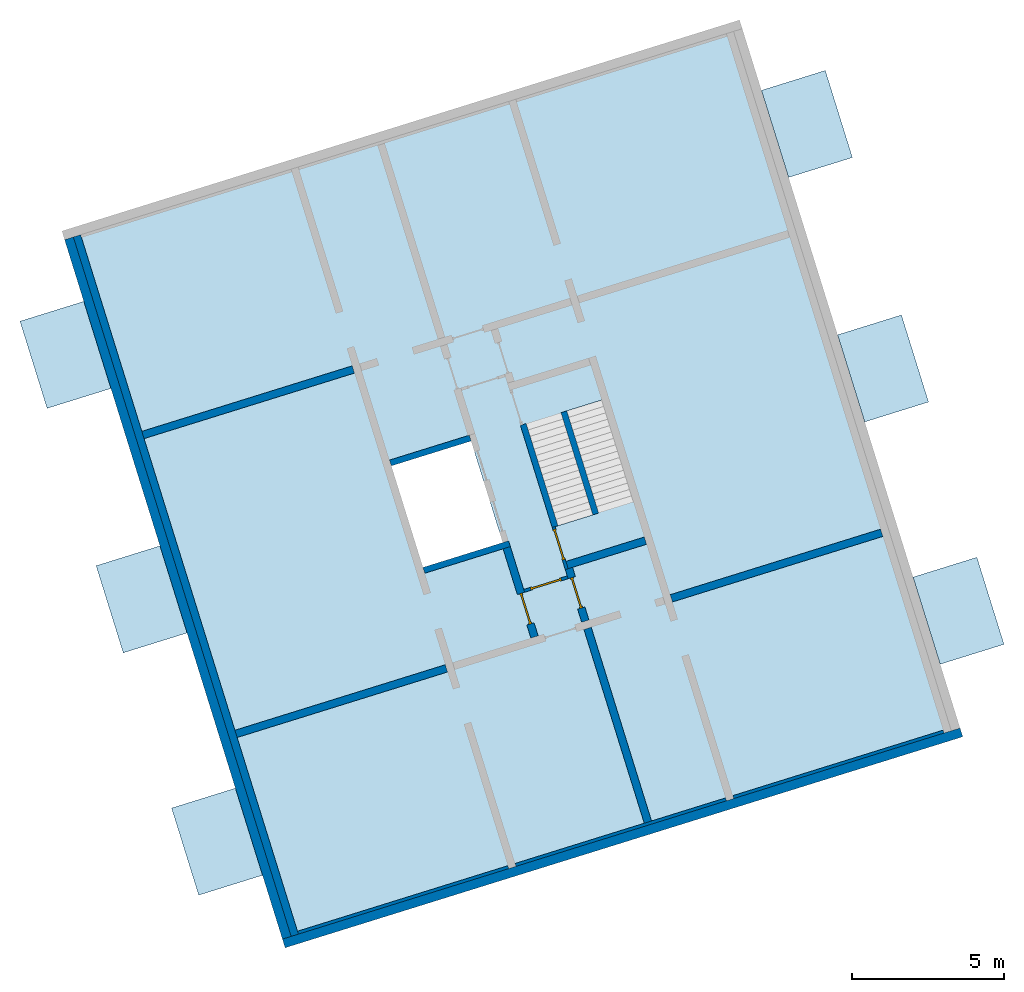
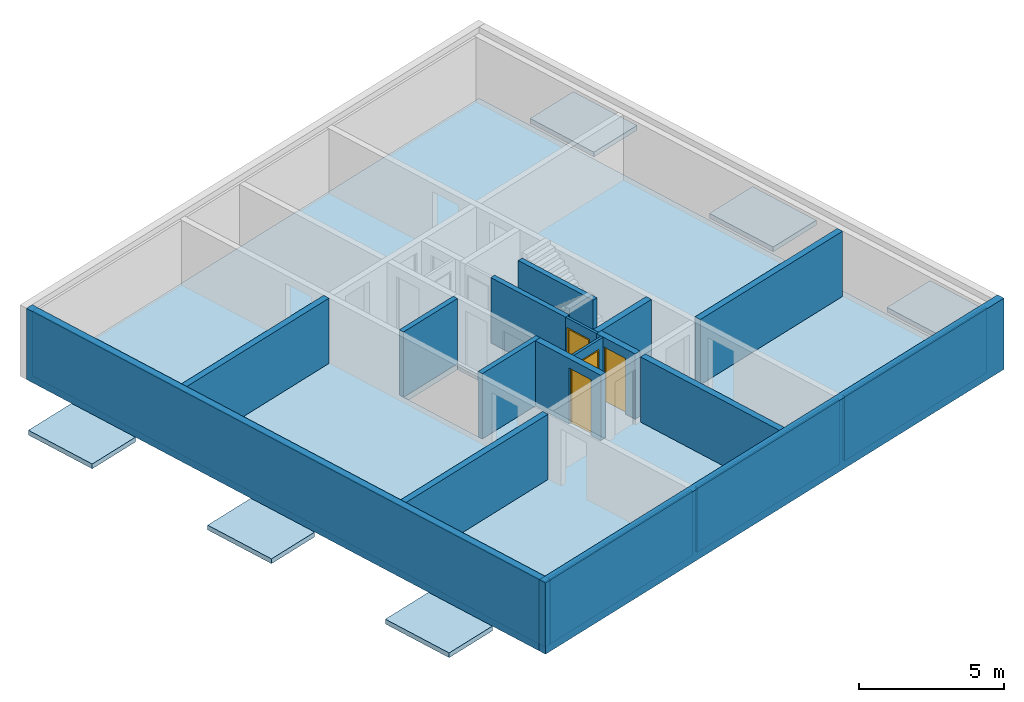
# One storey, part 1 of 4: 19 walls, 7 slabs, 4 doors, 6 openings.
"""IFC4 building model written with IfcOpenShell, lengths in metres."""

from ifc_helpers import new_model, entity, si_unit, converted_unit, direction, frame, origin, place, context, subcontext, project, spatial, indexed_curve, outline, extrude, polygons, source, transform, mapped, material, constituent, constituent_set, type_object, type_shapes, element, fill, save


model = new_model("IFC4")

# Units and contexts
model_context = context("Model", 3, precision=1e-05, world=origin(), true_north=direction((6.12323399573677e-17, 1.0)))
body_context = subcontext(model_context, "Body", "Model", "MODEL_VIEW")
ifc_project = project(units=[si_unit("LENGTHUNIT", "METRE"), si_unit("AREAUNIT", "SQUARE_METRE"), si_unit("VOLUMEUNIT", "CUBIC_METRE"), converted_unit("PLANEANGLEUNIT", "DEGREE", entity("IfcPlaneAngleMeasure", 0.0174532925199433), si_unit("PLANEANGLEUNIT", "RADIAN"), dimensions=[0, 0, 0, 0, 0, 0, 0])], contexts=[model_context])

# Site, building, storey
site_placement = place(None, frame((13.1347999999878, 11.9886000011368, 0.0), z_axis=(0.0, 0.0, 1.0), x_axis=(0.954770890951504, 0.297342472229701, 0.0)))
site = spatial("IfcSite", under=ifc_project, at=site_placement, Name="Schiehaven", CompositionType="ELEMENT")
building_placement = place(site_placement, origin())
building = spatial("IfcBuilding", under=site, at=building_placement, Name="VORM huis", CompositionType="ELEMENT")
storey_placement = place(building_placement, frame((0.0, 0.0, 15.9)))
storey = spatial("IfcBuildingStorey", under=building, at=storey_placement, Name="05 vijfde verdieping", CompositionType="ELEMENT", Elevation=15.9)

# Slab, openings
ifc_material_1 = material(Name="beton_gewapend_ihw", Category="Miscellaneous")
slab_type_1 = type_object("IfcSlabType", Name="Floor:28_FL_skelet_vloer 250mm", PredefinedType="FLOOR", material=ifc_material_1)
slab_1_placement = place(storey_placement, origin())
slab_1 = element("IfcSlab", 1, at=slab_1_placement, inside=storey, type_object=slab_type_1, material=ifc_material_1, Name="Constructieve vloer", ObjectType="Vloer", PredefinedType="FLOOR", context=body_context, shape_type="SweptSolid", body=[
    extrude(outline(indexed_curve([(-12.05, -11.375), (12.05, -11.375), (12.05, 11.375), (-12.05, 11.375), (-12.05, -11.375)], self_intersect=False), holes=[indexed_curve([(-1.75000000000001, -3.62500000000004), (-1.75000000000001, -0.875000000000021), (1.74999999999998, -0.875000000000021), (1.74999999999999, -3.62500000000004), (-1.75000000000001, -3.62500000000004)], self_intersect=False), indexed_curve([(1.76, 2.22499999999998), (1.76, 1.02499999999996), (-1.54, 1.02499999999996), (-1.54, 2.22499999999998), (1.76, 2.22499999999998)], self_intersect=False), indexed_curve([(-1.75999999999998, 3.62499999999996), (1.54, 3.62499999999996), (1.54, 2.42499999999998), (-1.75999999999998, 2.42499999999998), (-1.75999999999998, 3.62499999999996)], self_intersect=False)]), frame((16.2500000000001, 17.05, -0.249999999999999), z_axis=(0.0, 0.0, 1.0), x_axis=(0.0, -1.0, 0.0)), (0.0, 0.0, 1.0), 0.249999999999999),
])
opening_1_placement = place(slab_1_placement, origin())
element("IfcOpeningElement", 2, at=opening_1_placement, cuts=slab_1, Name="Constructieve vloer", PredefinedType="OPENING", context=body_context, shape_type="SweptSolid", body=[
    extrude(outline(indexed_curve([(-1.74999999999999, -1.37500000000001), (1.75, -1.37500000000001), (1.75, 1.37500000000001), (-1.75, 1.37500000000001), (-1.74999999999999, -1.37500000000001)], self_intersect=False)), frame((14.0, 17.05, -0.249999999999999), z_axis=(0.0, 0.0, 1.0), x_axis=(0.0, -1.0, 0.0)), (0.0, 0.0, 1.0), 0.249999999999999),
])
opening_2_placement = place(slab_1_placement, origin())
element("IfcOpeningElement", 3, at=opening_2_placement, cuts=slab_1, Name="Constructieve vloer", PredefinedType="OPENING", context=body_context, shape_type="SweptSolid", body=[
    extrude(outline(indexed_curve([(-1.65, -0.600000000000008), (1.65, -0.600000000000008), (1.65, 0.600000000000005), (-1.65, 0.600000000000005), (-1.65, -0.600000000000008)], self_intersect=False)), frame((17.8750000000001, 16.94, -0.249999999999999), z_axis=(0.0, 0.0, 1.0), x_axis=(0.0, 1.0, 0.0)), (0.0, 0.0, 1.0), 0.249999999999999),
])

# Slabs
ifc_material_2 = material(Name="beton_gewapend_prefab-element", Category="Miscellaneous")
slab_type_2 = type_object("IfcSlabType", Name="Floor:23_FL_skelet_balkon 200mm", PredefinedType="FLOOR", material=ifc_material_2)
slab_2_placement = place(storey_placement, origin())
element("IfcSlab", 4, at=slab_2_placement, inside=storey, type_object=slab_type_2, material=ifc_material_2, Name="Balkonvloer", ObjectType="Vloer", PredefinedType="FLOOR", context=body_context, shape_type="SweptSolid", body=[
    extrude(outline(indexed_curve([(-1.5, -1.1), (1.5, -1.1), (1.5, 1.09999999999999), (-1.5, 1.09999999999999), (-1.5, -1.1)], self_intersect=False)), frame((29.0250000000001, 25.475, 0.0), z_axis=(0.0, 0.0, -1.0), x_axis=(0.0, 1.0, 0.0)), (0.0, 0.0, 1.0), 0.2),
])
slab_3_placement = place(storey_placement, origin())
element("IfcSlab", 5, at=slab_3_placement, inside=storey, type_object=slab_type_2, material=ifc_material_2, Name="Balkonvloer", ObjectType="Vloer", PredefinedType="FLOOR", context=body_context, shape_type="SweptSolid", body=[
    extrude(outline(indexed_curve([(-1.5, -1.1), (1.5, -1.1), (1.5, 1.1), (-1.5, 1.1), (-1.5, -1.1)], self_intersect=False)), frame((29.0250000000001, 8.70000000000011, 0.0), z_axis=(0.0, 0.0, -1.0), x_axis=(0.0, 1.0, 0.0)), (0.0, 0.0, 1.0), 0.2),
])
slab_4_placement = place(storey_placement, origin())
element("IfcSlab", 6, at=slab_4_placement, inside=storey, type_object=slab_type_2, material=ifc_material_2, Name="Balkonvloer", ObjectType="Vloer", PredefinedType="FLOOR", context=body_context, shape_type="SweptSolid", body=[
    extrude(outline(indexed_curve([(-1.5, -1.1), (1.5, -1.1), (1.5, 1.1), (-1.5, 1.1), (-1.5, -1.1)], self_intersect=False)), frame((29.0250000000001, 17.05, 0.0), z_axis=(0.0, 0.0, -1.0), x_axis=(0.0, 1.0, 0.0)), (0.0, 0.0, 1.0), 0.2),
])
slab_5_placement = place(storey_placement, origin())
element("IfcSlab", 7, at=slab_5_placement, inside=storey, type_object=slab_type_2, material=ifc_material_2, Name="Balkonvloer", ObjectType="Vloer", PredefinedType="FLOOR", context=body_context, shape_type="SweptSolid", body=[
    extrude(outline(indexed_curve([(-1.49999999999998, -1.1), (1.50000000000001, -1.1), (1.49999999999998, 1.1), (-1.50000000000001, 1.1), (-1.49999999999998, -1.1)], self_intersect=False)), frame((3.47500000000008, 25.4750000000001, 0.0), z_axis=(0.0, 0.0, -1.0), x_axis=(0.0, 1.0, 0.0)), (0.0, 0.0, 1.0), 0.2),
])
slab_6_placement = place(storey_placement, origin())
element("IfcSlab", 8, at=slab_6_placement, inside=storey, type_object=slab_type_2, material=ifc_material_2, Name="Balkonvloer", ObjectType="Vloer", PredefinedType="FLOOR", context=body_context, shape_type="SweptSolid", body=[
    extrude(outline(indexed_curve([(-1.49999999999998, -1.1), (1.50000000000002, -1.1), (1.49999999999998, 1.1), (-1.50000000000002, 1.1), (-1.49999999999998, -1.1)], self_intersect=False)), frame((3.47499999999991, 8.70000000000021, 0.0), z_axis=(0.0, 0.0, -1.0), x_axis=(0.0, 1.0, 0.0)), (0.0, 0.0, 1.0), 0.2),
])
slab_7_placement = place(storey_placement, origin())
element("IfcSlab", 9, at=slab_7_placement, inside=storey, type_object=slab_type_2, material=ifc_material_2, Name="Balkonvloer", ObjectType="Vloer", PredefinedType="FLOOR", context=body_context, shape_type="SweptSolid", body=[
    extrude(outline(indexed_curve([(-1.49999999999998, -1.1), (1.50000000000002, -1.1), (1.49999999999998, 1.1), (-1.50000000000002, 1.1), (-1.49999999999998, -1.1)], self_intersect=False)), frame((3.47499999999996, 17.0500000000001, 0.0), z_axis=(0.0, 0.0, -1.0), x_axis=(0.0, 1.0, 0.0)), (0.0, 0.0, 1.0), 0.2),
])

# Walls
wall_type_1 = type_object("IfcWallType", Name="Basic Wall:28_WA_skelet_wand 250mm_gen", PredefinedType="STANDARD")
wall_1_placement = place(storey_placement, frame((5.0, 5.0, 0.0), z_axis=(0.0, 0.0, 1.0), x_axis=(0.0, 1.0, 0.0)))
element("IfcWall", 10, at=wall_1_placement, inside=storey, type_object=wall_type_1, material=ifc_material_1, Name="Constructieve wand", ObjectType="Wand", PredefinedType="NOTDEFINED", context=body_context, shape_type="SweptSolid", body=[
    extrude(outline(indexed_curve([(24.1, 0.125), (4.21737840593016e-16, 0.125), (-4.21737840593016e-16, -0.125), (24.1, -0.125), (24.1, 0.125)], self_intersect=False)), origin(), (0.0, 0.0, 1.0), 2.75),
])
ifc_material_3 = material(Name="ntb_ntb_ntb", Category="Miscellaneous")
wall_type_2 = type_object("IfcWallType", Name="Basic Wall:21_WA_gevel_binnenspouwwand 100mm_gen", PredefinedType="STANDARD")
wall_2_placement = place(storey_placement, frame((5.12500000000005, 5.05000000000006, 0.0)))
element("IfcWall", 11, at=wall_2_placement, inside=storey, type_object=wall_type_2, material=ifc_material_3, Name="Binnenspouwblad", ObjectType="Wand", PredefinedType="NOTDEFINED", context=body_context, shape_type="SweptSolid", body=[
    extrude(outline(indexed_curve([(7.24999999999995, 0.0500000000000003), (-1.84844170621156e-16, 0.0500000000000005), (1.84844170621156e-16, -0.0500000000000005), (7.24999999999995, -0.0500000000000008), (7.24999999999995, 0.0500000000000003)], self_intersect=False)), origin(), (0.0, 0.0, 1.0), 2.75),
])
wall_3_placement = place(storey_placement, frame((19.875, 5.04999999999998, 0.0), z_axis=(0.0, 0.0, 1.0), x_axis=(-1.0, 0.0, 0.0)))
element("IfcWall", 12, at=wall_3_placement, inside=storey, type_object=wall_type_2, material=ifc_material_3, Name="Binnenspouwblad", ObjectType="Wand", PredefinedType="NOTDEFINED", context=body_context, shape_type="SweptSolid", body=[
    extrude(outline(indexed_curve([(7.24999999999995, 0.050000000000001), (-3.3903742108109e-16, 0.0500000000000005), (3.3903742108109e-16, -0.0500000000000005), (7.24999999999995, -0.0500000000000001), (7.24999999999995, 0.050000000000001)], self_intersect=False)), origin(), (0.0, 0.0, 1.0), 2.75),
])
wall_4_placement = place(storey_placement, frame((20.1250000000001, 5.04999999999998, 0.0)))
element("IfcWall", 13, at=wall_4_placement, inside=storey, type_object=wall_type_2, material=ifc_material_3, Name="Binnenspouwblad", ObjectType="Wand", PredefinedType="NOTDEFINED", context=body_context, shape_type="SweptSolid", body=[
    extrude(outline(indexed_curve([(7.24999999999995, 0.0499999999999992), (-1.84844170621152e-16, 0.0499999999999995), (1.84844170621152e-16, -0.0499999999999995), (7.24999999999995, -0.0499999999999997), (7.24999999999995, 0.0499999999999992)], self_intersect=False)), origin(), (0.0, 0.0, 1.0), 2.75),
])
wall_type_3 = type_object("IfcWallType", Name="Basic Wall: 300mm_gen", PredefinedType="STANDARD")
wall_5_placement = place(storey_placement, frame((4.72500000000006, 5.0, 0.0), z_axis=(0.0, 0.0, 1.0), x_axis=(0.0, 1.0, 0.0)))
element("IfcWall", 14, at=wall_5_placement, inside=storey, type_object=wall_type_3, material=ifc_material_3, Name="Gevelwand", ObjectType="Wand", PredefinedType="NOTDEFINED", context=body_context, shape_type="SweptSolid", body=[
    extrude(outline(indexed_curve([(24.1, 0.15), (-3.8304924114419e-16, 0.15), (-6.99817888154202e-16, -0.15), (24.1, -0.15), (24.1, 0.15)], self_intersect=False)), origin(), (0.0, 0.0, 1.0), 3.0),
])
wall_6_placement = place(storey_placement, frame((27.9250000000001, 4.85000000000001, 0.0), z_axis=(0.0, 0.0, 1.0), x_axis=(-1.0, 0.0, 0.0)))
element("IfcWall", 15, at=wall_6_placement, inside=storey, type_object=wall_type_3, material=ifc_material_3, Name="Gevelwand", ObjectType="Wand", PredefinedType="NOTDEFINED", context=body_context, shape_type="SweptSolid", body=[
    extrude(outline(indexed_curve([(23.35, 0.15), (-3.8304924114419e-16, 0.15), (3.83049241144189e-16, -0.149999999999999), (23.35, -0.149999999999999), (23.35, 0.15)], self_intersect=False)), origin(), (0.0, 0.0, 1.0), 3.0),
])
wall_type_4 = type_object("IfcWallType", Name="Basic Wall:28_WA_skelet_wand 200mm_gen", PredefinedType="STANDARD")
wall_7_placement = place(storey_placement, frame((12.6250000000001, 15.2, 0.0)))
element("IfcWall", 16, at=wall_7_placement, inside=storey, type_object=wall_type_4, material=ifc_material_2, Name="Constructieve wand", ObjectType="Wand", PredefinedType="NOTDEFINED", context=body_context, shape_type="SweptSolid", body=[
    extrude(outline(indexed_curve([(2.95, 0.100000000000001), (-3.51397851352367e-16, 0.100000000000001), (3.51397851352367e-16, -0.100000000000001), (2.95, -0.100000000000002), (2.95, 0.100000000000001)], self_intersect=False)), origin(), (0.0, 0.0, 1.0), 2.75),
])
wall_8_placement = place(storey_placement, frame((15.3750000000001, 18.9, 0.0), z_axis=(0.0, 0.0, 1.0), x_axis=(-1.0, 0.0, 0.0)))
element("IfcWall", 17, at=wall_8_placement, inside=storey, type_object=wall_type_4, material=ifc_material_2, Name="Constructieve wand", ObjectType="Wand", PredefinedType="NOTDEFINED", context=body_context, shape_type="SweptSolid", body=[
    extrude(outline(indexed_curve([(2.75, 0.100000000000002), (-2.05391259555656e-16, 0.100000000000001), (2.05391259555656e-16, -0.100000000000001), (2.75, -0.0999999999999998), (2.75, 0.100000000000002)], self_intersect=False)), origin(), (0.0, 0.0, 1.0), 2.75),
])
wall_9_placement = place(storey_placement, frame((17.1750000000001, 15.29, 0.0), z_axis=(0.0, 0.0, 1.0), x_axis=(0.0, 1.0, 0.0)))
element("IfcWall", 18, at=wall_9_placement, inside=storey, type_object=wall_type_4, material=ifc_material_2, Name="Constructieve wand", ObjectType="Wand", PredefinedType="NOTDEFINED", context=body_context, shape_type="SweptSolid", body=[
    extrude(outline(indexed_curve([(3.52, 0.0999999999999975), (-5.13023966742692e-16, 0.0999999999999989), (5.13023966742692e-16, -0.0999999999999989), (3.52, -0.1), (3.52, 0.0999999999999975)], self_intersect=False)), origin(), (0.0, 0.0, 1.0), 2.75),
])
wall_10_placement = place(storey_placement, frame((18.5750000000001, 15.29, 0.0), z_axis=(0.0, 0.0, 1.0), x_axis=(0.0, 1.0, 0.0)))
element("IfcWall", 19, at=wall_10_placement, inside=storey, type_object=wall_type_4, material=ifc_material_2, Name="Constructieve wand", ObjectType="Wand", PredefinedType="NOTDEFINED", context=body_context, shape_type="SweptSolid", body=[
    extrude(outline(indexed_curve([(3.52, 0.0999999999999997), (-6.36077049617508e-16, 0.0999999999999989), (6.36077049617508e-16, -0.0999999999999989), (3.52, -0.0999999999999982), (3.52, 0.0999999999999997)], self_intersect=False)), origin(), (0.0, 0.0, 1.0), 2.75),
])
wall_type_5 = type_object("IfcWallType", Name="Basic Wall:22_WA_afbouw_binnenwand 250mm_gen", PredefinedType="STANDARD")
wall_11_placement = place(storey_placement, frame((12.3750000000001, 22.2, 0.0), z_axis=(0.0, 0.0, 1.0), x_axis=(-1.0, 0.0, 0.0)))
element("IfcWall", 20, at=wall_11_placement, inside=storey, type_object=wall_type_5, material=ifc_material_3, Name="Binnenwand", ObjectType="Wand", PredefinedType="NOTDEFINED", context=body_context, shape_type="SweptSolid", body=[
    extrude(outline(indexed_curve([(7.24999999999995, 0.125000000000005), (-4.9649652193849e-16, 0.125000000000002), (4.9649652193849e-16, -0.125000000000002), (7.24999999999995, -0.124999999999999), (7.24999999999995, 0.125000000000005)], self_intersect=False)), origin(), (0.0, 0.0, 1.0), 2.75),
])
wall_12_placement = place(storey_placement, frame((20.125, 11.9, 0.0)))
element("IfcWall", 21, at=wall_12_placement, inside=storey, type_object=wall_type_5, material=ifc_material_3, Name="Binnenwand", ObjectType="Wand", PredefinedType="NOTDEFINED", context=body_context, shape_type="SweptSolid", body=[
    extrude(outline(indexed_curve([(7.24999999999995, 0.125), (-1.92055213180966e-16, 0.125), (1.92055213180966e-16, -0.125), (7.24999999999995, -0.124999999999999), (7.24999999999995, 0.125)], self_intersect=False)), origin(), (0.0, 0.0, 1.0), 2.75),
])
wall_13_placement = place(storey_placement, frame((17.2000000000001, 11.775, 0.0), z_axis=(0.0, 0.0, 1.0), x_axis=(0.0, -1.0, 0.0)))
element("IfcWall", 22, at=wall_13_placement, inside=storey, type_object=wall_type_5, material=ifc_material_3, Name="Binnenwand", ObjectType="Wand", PredefinedType="NOTDEFINED", context=body_context, shape_type="SweptSolid", body=[
    extrude(outline(indexed_curve([(6.67500000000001, 0.125000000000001), (-2.98792823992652e-16, 0.125), (2.98792823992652e-16, -0.125), (6.67500000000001, -0.124999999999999), (6.67500000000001, 0.125000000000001)], self_intersect=False)), origin(), (0.0, 0.0, 1.0), 2.75),
])
wall_14_placement = place(storey_placement, frame((12.3750000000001, 11.9, 0.0), z_axis=(0.0, 0.0, 1.0), x_axis=(-1.0, 0.0, 0.0)))
element("IfcWall", 23, at=wall_14_placement, inside=storey, type_object=wall_type_5, material=ifc_material_3, Name="Binnenwand", ObjectType="Wand", PredefinedType="NOTDEFINED", context=body_context, shape_type="SweptSolid", body=[
    extrude(outline(indexed_curve([(7.24999999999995, 0.125), (-1.96773443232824e-16, 0.125), (1.96773443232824e-16, -0.125), (7.24999999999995, -0.124999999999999), (7.24999999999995, 0.125)], self_intersect=False)), origin(), (0.0, 0.0, 1.0), 2.75),
])

# Wall, opening, door
wall_15_placement = place(storey_placement, frame((17.2000000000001, 13.84, 0.0), z_axis=(0.0, 0.0, 1.0), x_axis=(0.0, -1.0, 0.0)))
wall_15 = element("IfcWall", 24, at=wall_15_placement, inside=storey, type_object=wall_type_5, material=ifc_material_3, Name="Binnenwand", ObjectType="Wand", PredefinedType="NOTDEFINED", context=body_context, shape_type="Tessellation", body=[
    polygons([(-2.16573425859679e-15, -0.125, -2.16573425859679e-15), (0.215000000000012, -0.124999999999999, -2.16573425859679e-15), (0.315000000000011, -0.124999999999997, -2.16573425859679e-15), (0.315000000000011, -0.124999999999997, 2.34999999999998), (1.36500000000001, -0.124999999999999, 2.34999999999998), (1.36500000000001, -0.124999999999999, -2.16573425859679e-15), (1.81499999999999, -0.125000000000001, -2.16573425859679e-15), (1.81499999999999, -0.125000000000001, 2.75), (0.315000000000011, -0.124999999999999, 2.75), (0.215000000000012, -0.124999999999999, 2.75), (-2.16573425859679e-15, -0.125, 2.75), (0.315000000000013, 0.125, 2.34999999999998), (0.315000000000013, 0.125, -2.16573425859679e-15), (0.0, 0.124999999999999, -2.16573425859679e-15), (0.0, 0.124999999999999, 2.75), (1.81499999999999, 0.124999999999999, 2.75), (1.81499999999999, 0.124999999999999, -2.16573425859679e-15), (1.36500000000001, 0.125, -2.16573425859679e-15), (1.36500000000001, 0.125, 2.34999999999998), (-2.16573425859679e-15, -0.0250000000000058, -2.16573425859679e-15), (-2.16573425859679e-15, -0.0250000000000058, 2.75)], [[[1, 2, 3, 4, 5, 6, 7, 8, 9, 10, 11]], [[12, 13, 14, 15, 16, 17, 18, 19]], [[14, 13, 3, 2, 1, 20]], [[8, 7, 17, 16]], [[11, 10, 9, 8, 16, 15, 21]], [[6, 5, 19, 18]], [[4, 3, 13, 12]], [[5, 4, 12, 19]], [[1, 11, 21, 15, 14, 20]], [[18, 17, 7, 6]]], closed=True),
])
opening_3_placement = place(wall_15_placement, frame((1.36500000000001, 0.125000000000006, 0.0)))
opening_3 = element("IfcOpeningElement", 25, at=opening_3_placement, cuts=wall_15, Name="Woningtoegangsdeur", PredefinedType="OPENING", context=body_context, shape_type="SweptSolid", body=[
    extrude(outline(indexed_curve([(2.34999999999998, 1.35358391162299e-15), (2.34999999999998, 1.05), (0.0, 1.05), (0.0, 1.35358391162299e-15), (2.34999999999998, 1.35358391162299e-15)], self_intersect=False)), frame((0.0, 0.0, 0.0), z_axis=(0.0, -1.0, 0.0), x_axis=(0.0, 0.0, 1.0)), (0.0, 0.0, 1.0), 0.25),
])
ifc_material_4 = material(Name="PD_a_binnenwandopeningen", Category="Miscellaneous")
ifc_constituent_1 = constituent(ifc_material_4, Name="PD_a_binnenwandopeningen", Category="Miscellaneous")
ifc_material_5 = material(Name="metaal_aluminium_ntb", Category="Miscellaneous")
ifc_constituent_2 = constituent(ifc_material_5, Name="metaal_aluminium_ntb", Category="Miscellaneous")
ifc_constituent_set_1 = constituent_set(constituents=[ifc_constituent_1, ifc_constituent_2])
ifc_constituent_3 = constituent(ifc_material_4, Name="PD_a_binnenwandopeningen", Category="Miscellaneous")
ifc_constituent_4 = constituent(ifc_material_5, Name="Panel", Category="Miscellaneous")
ifc_constituent_set_2 = constituent_set(constituents=[ifc_constituent_3, ifc_constituent_4])
door_type_1 = type_object("IfcDoorType", Name="32_DO_binnendeur enkel:woningtoegangsdeur", OperationType="REVOLVING", PredefinedType="DOOR", material=ifc_constituent_set_2)
shared_shape_1 = source(origin(), body_context, "Body", "SweptSolid", [
    extrude(outline(indexed_curve([(0.475, -1.16249999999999), (0.525000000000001, -1.16249999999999), (0.525000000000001, 1.18749999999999), (-0.525000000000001, 1.18749999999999), (-0.525000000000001, -1.16249999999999), (-0.475, -1.16249999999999), (-0.475, 1.13749999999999), (0.475, 1.13749999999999), (0.475, -1.16249999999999)], self_intersect=False)), frame((0.525000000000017, 0.174999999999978, 1.16249999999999), z_axis=(0.0, -1.0, 0.0), x_axis=(1.0, 0.0, 0.0)), (0.0, 0.0, 1.0), 0.1),
    extrude(outline(indexed_curve([(-0.475, -0.025), (0.475, -0.025), (0.475, 0.025), (-0.475, 0.025), (-0.475, -0.025)], self_intersect=False)), frame((0.525000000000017, 0.12499999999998, 0.0)), (0.0, 0.0, 1.0), 2.29999999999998),
])
type_shapes(door_type_1, [shared_shape_1])
door_1_placement = place(opening_3_placement, frame((0.0, 0.0, 0.0), z_axis=(0.0, 0.0, 1.0), x_axis=(-1.0, 0.0, 0.0)))
door_1 = element("IfcDoor", 26, at=door_1_placement, inside=storey, type_object=door_type_1, material=ifc_constituent_set_1, Name="Woningtoegangsdeur", ObjectType="Deur", OperationType="REVOLVING", OverallHeight=2.34999999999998, OverallWidth=1.05, PredefinedType="DOOR", context=body_context, shape_type="MappedRepresentation", body=[
    mapped(shared_shape_1, transform((0.0, 0.0, 0.0), scale=1.0)),
])
fill(opening_3, door_1)

wall_16_placement = place(storey_placement, frame((15.4500000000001, 15.1, 0.0), z_axis=(0.0, 0.0, 1.0), x_axis=(0.0, -1.0, 0.0)))
wall_16 = element("IfcWall", 27, at=wall_16_placement, inside=storey, type_object=wall_type_5, material=ifc_material_3, Name="Binnenwand", ObjectType="Wand", PredefinedType="NOTDEFINED", context=body_context, shape_type="Tessellation", body=[
    polygons([(2.62500000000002, -0.124999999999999, 2.34999999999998), (2.62500000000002, -0.124999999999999, -2.16573425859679e-15), (3.07499999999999, -0.124999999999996, -2.16573425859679e-15), (3.07499999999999, -0.124999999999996, 2.75), (0.0, -0.125000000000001, 2.75), (0.0, -0.125000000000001, -2.16573425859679e-15), (1.57500000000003, -0.124999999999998, -2.16573425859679e-15), (1.57500000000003, -0.124999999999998, 2.34999999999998), (3.07499999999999, 0.125000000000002, -2.16573425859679e-15), (2.62500000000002, 0.125000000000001, -2.16573425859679e-15), (2.62500000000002, 0.125000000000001, 2.34999999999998), (1.57500000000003, 0.125000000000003, 2.34999999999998), (1.57500000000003, 0.125000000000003, -2.16573425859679e-15), (1.475, 0.125000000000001, -2.16573425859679e-15), (0.0, 0.125000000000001, -2.16573425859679e-15), (0.0, 0.125000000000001, 2.75), (1.475, 0.125000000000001, 2.75), (1.575, 0.125000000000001, 2.75), (3.07499999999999, 0.125000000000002, 2.75)], [[[1, 2, 3, 4, 5, 6, 7, 8]], [[9, 10, 11, 12, 13, 14, 15, 16, 17, 18, 19]], [[7, 6, 15, 14, 13]], [[4, 3, 9, 19]], [[5, 4, 19, 18, 17, 16]], [[6, 5, 16, 15]], [[13, 12, 8, 7]], [[11, 10, 2, 1]], [[12, 11, 1, 8]], [[3, 2, 10, 9]]], closed=True),
])
opening_4_placement = place(wall_16_placement, frame((1.57500000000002, -0.124999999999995, 0.0)))
opening_4 = element("IfcOpeningElement", 28, at=opening_4_placement, cuts=wall_16, Name="Woningtoegangsdeur", PredefinedType="OPENING", context=body_context, shape_type="SweptSolid", body=[
    extrude(outline(indexed_curve([(2.34999999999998, 1.35358391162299e-15), (2.34999999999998, 1.05), (0.0, 1.05), (0.0, 1.35358391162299e-15), (2.34999999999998, 1.35358391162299e-15)], self_intersect=False)), frame((0.0, 0.0, 0.0), z_axis=(0.0, 1.0, 0.0), x_axis=(0.0, 0.0, 1.0)), (0.0, 0.0, 1.0), 0.25),
])
ifc_constituent_5 = constituent(ifc_material_4, Name="PD_a_binnenwandopeningen", Category="Miscellaneous")
ifc_constituent_6 = constituent(ifc_material_5, Name="metaal_aluminium_ntb", Category="Miscellaneous")
ifc_constituent_set_3 = constituent_set(constituents=[ifc_constituent_5, ifc_constituent_6])
door_2_placement = place(opening_4_placement, origin())
door_2 = element("IfcDoor", 29, at=door_2_placement, inside=storey, type_object=door_type_1, material=ifc_constituent_set_3, Name="Woningtoegangsdeur", ObjectType="Deur", OperationType="REVOLVING", OverallHeight=2.34999999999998, OverallWidth=1.05, PredefinedType="DOOR", context=body_context, shape_type="MappedRepresentation", body=[
    mapped(shared_shape_1, transform((0.0, 0.0, 0.0), scale=1.0)),
])
fill(opening_4, door_2)

# Wall
wall_17_placement = place(storey_placement, frame((19.8750000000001, 13.965, 0.0), z_axis=(0.0, 0.0, 1.0), x_axis=(-1.0, 0.0, 0.0)))
element("IfcWall", 30, at=wall_17_placement, inside=storey, type_object=wall_type_5, material=ifc_material_3, Name="Binnenwand", ObjectType="Wand", PredefinedType="NOTDEFINED", context=body_context, shape_type="SweptSolid", body=[
    extrude(outline(indexed_curve([(2.70000000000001, 0.124999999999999), (-3.69797181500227e-16, 0.125), (3.69797181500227e-16, -0.125), (2.70000000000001, -0.125), (2.70000000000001, 0.124999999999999)], self_intersect=False)), origin(), (0.0, 0.0, 1.0), 2.75),
])

# Wall, opening, door
wall_type_6 = type_object("IfcWallType", Name="Basic Wall:22_WA_afbouw_binnenwand 100mm_gen", PredefinedType="STANDARD")
wall_18_placement = place(storey_placement, frame((17.1250000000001, 13.84, 0.0), z_axis=(0.0, 0.0, 1.0), x_axis=(0.0, 1.0, 0.0)))
wall_18 = element("IfcWall", 31, at=wall_18_placement, inside=storey, type_object=wall_type_6, material=ifc_material_3, Name="Binnenwand", ObjectType="Wand", PredefinedType="NOTDEFINED", context=body_context, shape_type="Tessellation", body=[
    polygons([(1.44999999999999, -0.0500000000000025, -2.16573425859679e-15), (1.44999999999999, -0.0500000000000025, 2.75), (0.249999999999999, -0.0500000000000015, 2.75), (0.0, -0.0500000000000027, 2.75), (0.0, -0.0500000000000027, -2.16573425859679e-15), (0.249999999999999, -0.0500000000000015, -2.16573425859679e-15), (0.324999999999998, -0.0500000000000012, -2.16573425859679e-15), (0.324999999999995, -0.0500000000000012, 2.34999999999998), (1.375, -0.0500000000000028, 2.34999999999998), (1.375, -0.0500000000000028, -2.16573425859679e-15), (1.44999999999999, 0.0499999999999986, 2.75), (1.44999999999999, 0.0499999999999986, -2.16573425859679e-15), (1.37499999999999, 0.0499999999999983, -2.16573425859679e-15), (1.37499999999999, 0.0500000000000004, 2.34999999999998), (0.324999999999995, 0.0500000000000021, 2.34999999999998), (0.324999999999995, 0.0499999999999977, -2.16573425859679e-15), (-2.16573425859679e-15, 0.0500000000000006, -2.16573425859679e-15), (-2.16573425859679e-15, 0.0500000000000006, 2.75)], [[[1, 2, 3, 4, 5, 6, 7, 8, 9, 10]], [[11, 12, 13, 14, 15, 16, 17, 18]], [[5, 17, 16, 7, 6]], [[2, 1, 12, 11]], [[4, 3, 2, 11, 18]], [[15, 8, 7, 16]], [[9, 14, 13, 10]], [[8, 15, 14, 9]], [[5, 4, 18, 17]], [[12, 1, 10, 13]]], closed=True),
])
opening_5_placement = place(wall_18_placement, frame((1.375, 0.0499999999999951, 0.0)))
opening_5 = element("IfcOpeningElement", 32, at=opening_5_placement, cuts=wall_18, Name="Vluchtdeur", PredefinedType="OPENING", context=body_context, shape_type="SweptSolid", body=[
    extrude(outline(indexed_curve([(2.34999999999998, 1.05), (0.0, 1.05), (0.0, 1.35358391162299e-15), (2.34999999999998, 1.35358391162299e-15), (2.34999999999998, 1.05)], self_intersect=False)), frame((0.0, 0.0, 0.0), z_axis=(0.0, -1.0, 0.0), x_axis=(0.0, 0.0, 1.0)), (0.0, 0.0, 1.0), 0.1),
])
ifc_constituent_7 = constituent(ifc_material_4, Name="PD_a_binnenwandopeningen", Category="Miscellaneous")
ifc_constituent_8 = constituent(ifc_material_5, Name="metaal_aluminium_ntb", Category="Miscellaneous")
ifc_constituent_set_4 = constituent_set(constituents=[ifc_constituent_7, ifc_constituent_8])
ifc_constituent_9 = constituent(ifc_material_4, Name="PD_a_binnenwandopeningen", Category="Miscellaneous")
ifc_constituent_10 = constituent(ifc_material_5, Name="Panel", Category="Miscellaneous")
ifc_constituent_set_5 = constituent_set(constituents=[ifc_constituent_9, ifc_constituent_10])
door_type_2 = type_object("IfcDoorType", Name="32_DO_binnendeur enkel:binnendeur zelfsluitend 30min", OperationType="NOTDEFINED", PredefinedType="DOOR", material=ifc_constituent_set_5)
shared_shape_2 = source(origin(), body_context, "Body", "SweptSolid", [
    extrude(outline(indexed_curve([(-1.16249999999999, -0.525000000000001), (1.18749999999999, -0.525), (1.18749999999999, 0.525), (-1.16249999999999, 0.525), (-1.16249999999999, 0.475), (1.13749999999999, 0.475), (1.13749999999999, -0.475), (-1.16249999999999, -0.475), (-1.16249999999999, -0.525000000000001)], self_intersect=False)), frame((0.525000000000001, 0.0, 1.16249999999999), z_axis=(0.0, 1.0, 0.0), x_axis=(0.0, 0.0, 1.0)), (0.0, 0.0, 1.0), 0.1),
    extrude(outline(indexed_curve([(-0.025, -0.475), (0.025, -0.475), (0.025, 0.475), (-0.025, 0.475), (-0.025, -0.475)], self_intersect=False)), frame((0.525000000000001, 0.0499999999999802, 0.0), z_axis=(0.0, 0.0, 1.0), x_axis=(0.0, 1.0, 0.0)), (0.0, 0.0, 1.0), 2.29999999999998),
])
type_shapes(door_type_2, [shared_shape_2])
door_3_placement = place(opening_5_placement, frame((0.0, 0.0, 0.0), z_axis=(0.0, 0.0, 1.0), x_axis=(-1.0, 0.0, 0.0)))
door_3 = element("IfcDoor", 33, at=door_3_placement, inside=storey, type_object=door_type_2, material=ifc_constituent_set_4, Name="Vluchtdeur", ObjectType="Deur", OperationType="NOTDEFINED", OverallHeight=2.34999999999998, OverallWidth=1.05, PredefinedType="DOOR", context=body_context, shape_type="MappedRepresentation", body=[
    mapped(shared_shape_2, transform((0.0, 0.0, 0.0), scale=1.0)),
])
fill(opening_5, door_3)

wall_19_placement = place(storey_placement, frame((17.0750000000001, 13.575, 0.0), z_axis=(0.0, 0.0, 1.0), x_axis=(-1.0, 0.0, 0.0)))
wall_19 = element("IfcWall", 34, at=wall_19_placement, inside=storey, type_object=wall_type_6, material=ifc_material_3, Name="Binnenwand", ObjectType="Wand", PredefinedType="NOTDEFINED", context=body_context, shape_type="Tessellation", body=[
    polygons([(1.5, -0.0499999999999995, 2.75), (-1.35141276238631e-15, -0.0499999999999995, 2.75), (-1.35141276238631e-15, -0.0499999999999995, -2.16573425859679e-15), (0.224999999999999, -0.0499999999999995, -2.16573425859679e-15), (0.224999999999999, -0.0499999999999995, 2.34999999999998), (1.275, -0.0499999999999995, 2.34999999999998), (1.275, -0.0499999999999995, -2.16573425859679e-15), (1.5, -0.0499999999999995, -2.16573425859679e-15), (-2.16804959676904e-15, 0.0500000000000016, 2.75), (1.5, 0.0499999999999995, 2.75), (1.50000000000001, 0.0499999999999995, 2.34999999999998), (1.5, 0.0499999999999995, -2.16573425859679e-15), (1.275, 0.0499999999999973, -2.16573425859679e-15), (1.275, 0.0499999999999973, 2.34999999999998), (0.224999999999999, 0.0500000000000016, 2.34999999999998), (0.224999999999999, 0.0500000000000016, -2.16573425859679e-15), (-2.16804959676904e-15, 0.0500000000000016, -2.16573425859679e-15), (-2.31533817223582e-18, 0.0499999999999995, 2.34999999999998)], [[[1, 2, 3, 4, 5, 6, 7, 8]], [[9, 10, 11, 12, 13, 14, 15, 16, 17, 18]], [[3, 17, 16, 4]], [[2, 1, 10, 9]], [[15, 5, 4, 16]], [[5, 15, 14, 6]], [[6, 14, 13, 7]], [[3, 2, 9, 18, 17]], [[1, 8, 12, 11, 10]], [[12, 8, 7, 13]]], closed=True),
])
opening_6_placement = place(wall_19_placement, frame((1.275, 0.0499999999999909, 0.0)))
opening_6 = element("IfcOpeningElement", 35, at=opening_6_placement, cuts=wall_19, Name="Vluchtdeur", PredefinedType="OPENING", context=body_context, shape_type="SweptSolid", body=[
    extrude(outline(indexed_curve([(2.34999999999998, 1.35358391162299e-15), (2.34999999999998, 1.05), (0.0, 1.05), (0.0, 1.35358391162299e-15), (2.34999999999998, 1.35358391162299e-15)], self_intersect=False)), frame((0.0, 0.0, 0.0), z_axis=(0.0, -1.0, 0.0), x_axis=(0.0, 0.0, 1.0)), (0.0, 0.0, 1.0), 0.1),
])
ifc_constituent_11 = constituent(ifc_material_4, Name="PD_a_binnenwandopeningen", Category="Miscellaneous")
ifc_constituent_12 = constituent(ifc_material_5, Name="metaal_aluminium_ntb", Category="Miscellaneous")
ifc_constituent_set_6 = constituent_set(constituents=[ifc_constituent_11, ifc_constituent_12])
ifc_constituent_13 = constituent(ifc_material_4, Name="PD_a_binnenwandopeningen", Category="Miscellaneous")
ifc_constituent_14 = constituent(ifc_material_5, Name="Panel", Category="Miscellaneous")
ifc_constituent_set_7 = constituent_set(constituents=[ifc_constituent_13, ifc_constituent_14])
door_type_3 = type_object("IfcDoorType", Name="32_DO_binnendeur enkel:binnendeur zelfsluitend 30min", OperationType="NOTDEFINED", PredefinedType="DOOR", material=ifc_constituent_set_7)
shared_shape_3 = source(origin(), body_context, "Body", "SweptSolid", [
    extrude(outline(indexed_curve([(0.475, -1.16249999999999), (0.525, -1.16249999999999), (0.525, 1.18749999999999), (-0.525, 1.18749999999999), (-0.525, -1.16249999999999), (-0.475, -1.16249999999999), (-0.475, 1.13749999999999), (0.475, 1.13749999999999), (0.475, -1.16249999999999)], self_intersect=False)), frame((0.525000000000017, 0.100000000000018, 1.16249999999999), z_axis=(0.0, -1.0, 0.0), x_axis=(1.0, 0.0, 0.0)), (0.0, 0.0, 1.0), 0.1),
    extrude(outline(indexed_curve([(-0.475, -0.025), (0.475, -0.025), (0.475, 0.025), (-0.475, 0.025), (-0.475, -0.025)], self_intersect=False)), frame((0.525000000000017, 0.0499999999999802, 0.0)), (0.0, 0.0, 1.0), 2.29999999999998),
])
type_shapes(door_type_3, [shared_shape_3])
door_4_placement = place(opening_6_placement, frame((0.0, 0.0, 0.0), z_axis=(0.0, 0.0, 1.0), x_axis=(-1.0, 0.0, 0.0)))
door_4 = element("IfcDoor", 36, at=door_4_placement, inside=storey, type_object=door_type_3, material=ifc_constituent_set_6, Name="Vluchtdeur", ObjectType="Deur", OperationType="NOTDEFINED", OverallHeight=2.34999999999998, OverallWidth=1.05, PredefinedType="DOOR", context=body_context, shape_type="MappedRepresentation", body=[
    mapped(shared_shape_3, transform((0.0, 0.0, 0.0), scale=1.0)),
])
fill(opening_6, door_4)

save(model, "model.ifc")
